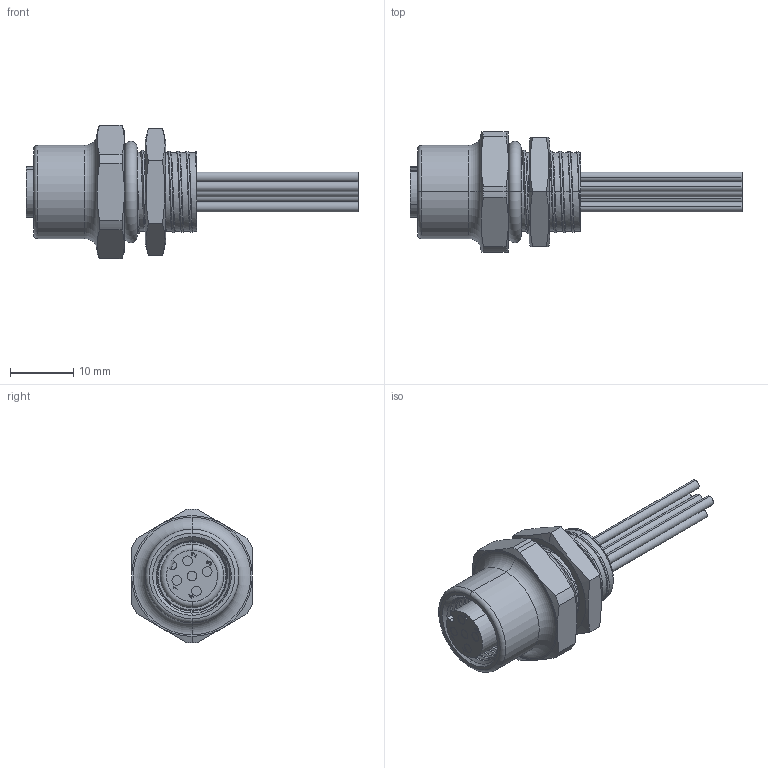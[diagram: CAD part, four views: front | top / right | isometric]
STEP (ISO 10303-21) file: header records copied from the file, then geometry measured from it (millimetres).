
FILE_DESCRIPTION (( 'STEP AP214' ), '1' );
FILE_NAME ('MDC-5FR-4-ZZ.STEP', '2013-01-11T21:02:06', ( 'Mencom User' ), ( 'Hewlett-Packard Company' ), 'SwSTEP 2.0', 'SolidWorks 2012', '' );
FILE_SCHEMA (( 'AUTOMOTIVE_DESIGN' ));
Length unit declared in the file: inch
Products named in the file (1): MDC-5FR-4-ZZ
Bounding box: 52.35 x 19.05 x 21.08 mm (x, y, z)
Volume: 4850.4 mm3; surface area: 4021.9 mm2
Topology: 3 solids, 3 shells, 233 faces, 594 edges, 386 vertices
Faces by surface type: cylinder 84, plane 74, cone 35, bspline 28, torus 12
Entity records: 14966 total; most frequent: CARTESIAN_POINT 7042, ORIENTED_EDGE 1188, DIRECTION 971, EDGE_CURVE 594, VERTEX_POINT 386, AXIS2_PLACEMENT_3D 368, EDGE_LOOP 256, LINE 235
